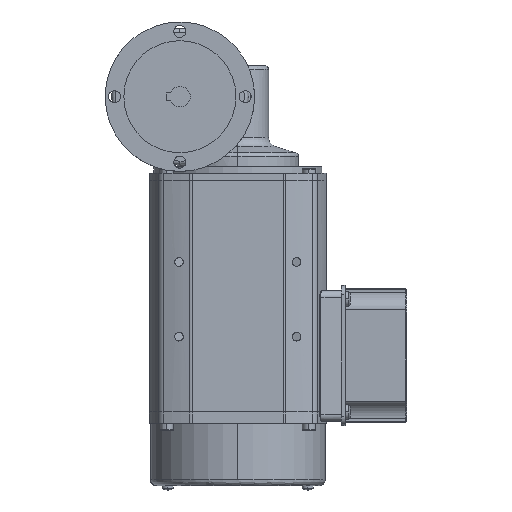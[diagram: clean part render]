
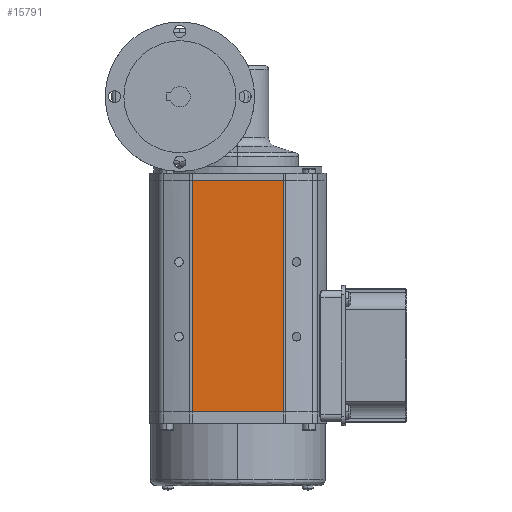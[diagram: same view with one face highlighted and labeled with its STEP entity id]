
A CAD part, left-side view. The second image highlights one B-rep face of the part: STEP entity #15791.
In plain terms, the highlighted planar face has unit normal (-1, 0, 0) as drawn and (0, -1, 0) by its records, which use the part's own axes.
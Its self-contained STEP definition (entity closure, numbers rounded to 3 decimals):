
#468 = LINE ( 'NONE', #21241, #25709 ) ;
#1092 = ORIENTED_EDGE ( 'NONE', *, *, #21169, .T. ) ;
#1094 = CARTESIAN_POINT ( 'NONE',  ( 158.7, 385.5, 20.91 ) ) ;
#2007 = LINE ( 'NONE', #9378, #20696 ) ;
#2156 = VERTEX_POINT ( 'NONE', #9482 ) ;
#2503 = CARTESIAN_POINT ( 'NONE',  ( 134.291, 385.5, 20.91 ) ) ;
#3157 = EDGE_CURVE ( 'NONE', #7881, #2156, #10444, .T. ) ;
#3196 = LINE ( 'NONE', #12626, #28448 ) ;
#3526 = DIRECTION ( 'NONE',  ( 0., 0., -1. ) ) ;
#4639 = CARTESIAN_POINT ( 'NONE',  ( 157.529, 385.5, -102.89 ) ) ;
#5070 = DIRECTION ( 'NONE',  ( -1., 0., 0. ) ) ;
#7881 = VERTEX_POINT ( 'NONE', #26172 ) ;
#8329 = PLANE ( 'NONE',  #16883 ) ;
#8613 = VERTEX_POINT ( 'NONE', #26140 ) ;
#9378 = CARTESIAN_POINT ( 'NONE',  ( 158.7, 385.5, 20.91 ) ) ;
#9482 = CARTESIAN_POINT ( 'NONE',  ( 134.291, 385.5, -102.89 ) ) ;
#9882 = ORIENTED_EDGE ( 'NONE', *, *, #27179, .T. ) ;
#10444 = LINE ( 'NONE', #4639, #22715 ) ;
#12626 = CARTESIAN_POINT ( 'NONE',  ( 134.291, 385.5, 20.91 ) ) ;
#13696 = ORIENTED_EDGE ( 'NONE', *, *, #30006, .T. ) ;
#15103 = DIRECTION ( 'NONE',  ( 0., 0., -1. ) ) ;
#15791 = ADVANCED_FACE ( 'NONE', ( #22549 ), #8329, .T. ) ;
#16883 = AXIS2_PLACEMENT_3D ( 'NONE', #1094, #18206, #3526 ) ;
#17079 = VERTEX_POINT ( 'NONE', #2503 ) ;
#18206 = DIRECTION ( 'NONE',  ( 0., -1., 0. ) ) ;
#20696 = VECTOR ( 'NONE', #31205, 1000. ) ;
#21169 = EDGE_CURVE ( 'NONE', #8613, #17079, #2007, .T. ) ;
#21241 = CARTESIAN_POINT ( 'NONE',  ( 183.109, 385.5, 20.91 ) ) ;
#22549 = FACE_OUTER_BOUND ( 'NONE', #29295, .T. ) ;
#22715 = VECTOR ( 'NONE', #5070, 1000. ) ;
#23712 = DIRECTION ( 'NONE',  ( 0., 0., 1. ) ) ;
#25709 = VECTOR ( 'NONE', #23712, 1000. ) ;
#26140 = CARTESIAN_POINT ( 'NONE',  ( 183.109, 385.5, 20.91 ) ) ;
#26172 = CARTESIAN_POINT ( 'NONE',  ( 183.109, 385.5, -102.89 ) ) ;
#27179 = EDGE_CURVE ( 'NONE', #17079, #2156, #3196, .T. ) ;
#28448 = VECTOR ( 'NONE', #15103, 1000. ) ;
#29295 = EDGE_LOOP ( 'NONE', ( #1092, #9882, #30923, #13696 ) ) ;
#30006 = EDGE_CURVE ( 'NONE', #7881, #8613, #468, .T. ) ;
#30923 = ORIENTED_EDGE ( 'NONE', *, *, #3157, .F. ) ;
#31205 = DIRECTION ( 'NONE',  ( -1., 0., 0. ) ) ;
